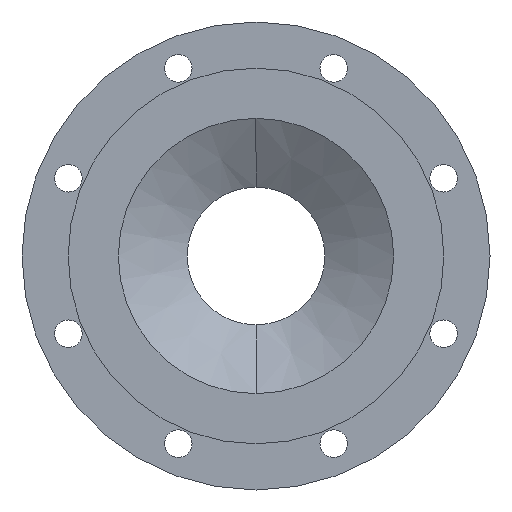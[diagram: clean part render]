
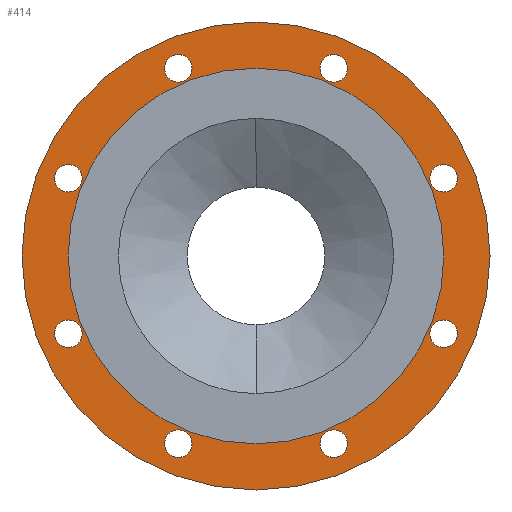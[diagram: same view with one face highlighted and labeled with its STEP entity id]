
A CAD part, left-side view. The second image highlights one B-rep face of the part: STEP entity #414.
In plain terms, the highlighted planar face has unit normal (-1, 0, 0).
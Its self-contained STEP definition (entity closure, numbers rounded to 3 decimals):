
#414=ADVANCED_FACE('',(#813,#814,#815,#816,#817,#818,#819,#820,#821,#822),#823,.F.);
#813=FACE_BOUND('',#1336,.T.);
#814=FACE_BOUND('',#1337,.T.);
#815=FACE_BOUND('',#1338,.T.);
#816=FACE_BOUND('',#1339,.T.);
#817=FACE_BOUND('',#1340,.T.);
#818=FACE_BOUND('',#1341,.T.);
#819=FACE_BOUND('',#1342,.T.);
#820=FACE_BOUND('',#1343,.T.);
#821=FACE_BOUND('',#1344,.T.);
#822=FACE_OUTER_BOUND('',#1345,.T.);
#823=PLANE('',#1346);
#1336=EDGE_LOOP('',(#1965,#1966));
#1337=EDGE_LOOP('',(#1967,#1968));
#1338=EDGE_LOOP('',(#1969,#1970));
#1339=EDGE_LOOP('',(#1971,#1972));
#1340=EDGE_LOOP('',(#1973,#1974));
#1341=EDGE_LOOP('',(#1975,#1976));
#1342=EDGE_LOOP('',(#1977,#1978));
#1343=EDGE_LOOP('',(#1979,#1980));
#1344=EDGE_LOOP('',(#1981,#1982));
#1345=EDGE_LOOP('',(#1983,#1984));
#1346=AXIS2_PLACEMENT_3D('',#1985,#1986,#1987);
#1965=ORIENTED_EDGE('',*,*,#2881,.T.);
#1966=ORIENTED_EDGE('',*,*,#2882,.T.);
#1967=ORIENTED_EDGE('',*,*,#2883,.T.);
#1968=ORIENTED_EDGE('',*,*,#2721,.T.);
#1969=ORIENTED_EDGE('',*,*,#2884,.T.);
#1970=ORIENTED_EDGE('',*,*,#2885,.T.);
#1971=ORIENTED_EDGE('',*,*,#2781,.T.);
#1972=ORIENTED_EDGE('',*,*,#2886,.T.);
#1973=ORIENTED_EDGE('',*,*,#2847,.T.);
#1974=ORIENTED_EDGE('',*,*,#2887,.T.);
#1975=ORIENTED_EDGE('',*,*,#2754,.T.);
#1976=ORIENTED_EDGE('',*,*,#2888,.T.);
#1977=ORIENTED_EDGE('',*,*,#2889,.T.);
#1978=ORIENTED_EDGE('',*,*,#2890,.T.);
#1979=ORIENTED_EDGE('',*,*,#2866,.T.);
#1980=ORIENTED_EDGE('',*,*,#2891,.T.);
#1981=ORIENTED_EDGE('',*,*,#2718,.T.);
#1982=ORIENTED_EDGE('',*,*,#2892,.T.);
#1983=ORIENTED_EDGE('',*,*,#2893,.F.);
#1984=ORIENTED_EDGE('',*,*,#2894,.F.);
#1985=CARTESIAN_POINT('',(1.0,0.0,0.));
#1986=DIRECTION('',(1.0,0.0,0.));
#1987=DIRECTION('',(0.,0.0,-1.0));
#2718=EDGE_CURVE('',#3145,#3149,#3151,.T.);
#2721=EDGE_CURVE('',#3156,#3154,#3157,.T.);
#2754=EDGE_CURVE('',#3205,#3209,#3211,.T.);
#2781=EDGE_CURVE('',#3253,#3257,#3259,.T.);
#2847=EDGE_CURVE('',#3358,#3362,#3364,.T.);
#2866=EDGE_CURVE('',#3389,#3393,#3395,.T.);
#2881=EDGE_CURVE('',#3417,#3418,#3419,.T.);
#2882=EDGE_CURVE('',#3418,#3417,#3420,.T.);
#2883=EDGE_CURVE('',#3154,#3156,#3421,.T.);
#2884=EDGE_CURVE('',#3422,#3423,#3424,.T.);
#2885=EDGE_CURVE('',#3423,#3422,#3425,.T.);
#2886=EDGE_CURVE('',#3257,#3253,#3426,.T.);
#2887=EDGE_CURVE('',#3362,#3358,#3427,.T.);
#2888=EDGE_CURVE('',#3209,#3205,#3428,.T.);
#2889=EDGE_CURVE('',#3429,#3430,#3431,.T.);
#2890=EDGE_CURVE('',#3430,#3429,#3432,.T.);
#2891=EDGE_CURVE('',#3393,#3389,#3433,.T.);
#2892=EDGE_CURVE('',#3149,#3145,#3434,.T.);
#2893=EDGE_CURVE('',#3435,#3436,#3437,.T.);
#2894=EDGE_CURVE('',#3436,#3435,#3438,.T.);
#3145=VERTEX_POINT('',#3756);
#3149=VERTEX_POINT('',#3761);
#3151=CIRCLE('',#3764,136.5);
#3154=VERTEX_POINT('',#3767);
#3156=VERTEX_POINT('',#3770);
#3157=CIRCLE('',#3771,10.0);
#3205=VERTEX_POINT('',#3831);
#3209=VERTEX_POINT('',#3836);
#3211=CIRCLE('',#3839,10.0);
#3253=VERTEX_POINT('',#3897);
#3257=VERTEX_POINT('',#3902);
#3259=CIRCLE('',#3905,10.0);
#3358=VERTEX_POINT('',#4037);
#3362=VERTEX_POINT('',#4042);
#3364=CIRCLE('',#4045,10.0);
#3389=VERTEX_POINT('',#4078);
#3393=VERTEX_POINT('',#4083);
#3395=CIRCLE('',#4086,10.0);
#3417=VERTEX_POINT('',#4118);
#3418=VERTEX_POINT('',#4119);
#3419=CIRCLE('',#4120,10.0);
#3420=CIRCLE('',#4121,10.0);
#3421=CIRCLE('',#4122,10.0);
#3422=VERTEX_POINT('',#4123);
#3423=VERTEX_POINT('',#4124);
#3424=CIRCLE('',#4125,10.0);
#3425=CIRCLE('',#4126,10.0);
#3426=CIRCLE('',#4127,10.0);
#3427=CIRCLE('',#4128,10.0);
#3428=CIRCLE('',#4129,10.0);
#3429=VERTEX_POINT('',#4130);
#3430=VERTEX_POINT('',#4131);
#3431=CIRCLE('',#4132,10.0);
#3432=CIRCLE('',#4133,10.0);
#3433=CIRCLE('',#4134,10.0);
#3434=CIRCLE('',#4135,136.5);
#3435=VERTEX_POINT('',#4136);
#3436=VERTEX_POINT('',#4137);
#3437=CIRCLE('',#4138,170.0);
#3438=CIRCLE('',#4139,170.0);
#3756=CARTESIAN_POINT('',(1.,0.0,-136.5));
#3761=CARTESIAN_POINT('',(1.,0.,136.5));
#3764=AXIS2_PLACEMENT_3D('',#4506,#4507,#4508);
#3767=CARTESIAN_POINT('',(1.0,56.446,-146.272));
#3770=CARTESIAN_POINT('',(1.,56.446,-126.272));
#3771=AXIS2_PLACEMENT_3D('',#4510,#4511,#4512);
#3831=CARTESIAN_POINT('',(1.0,56.446,126.272));
#3836=CARTESIAN_POINT('',(1.,56.446,146.272));
#3839=AXIS2_PLACEMENT_3D('',#4554,#4555,#4556);
#3897=CARTESIAN_POINT('',(1.0,-56.446,126.272));
#3902=CARTESIAN_POINT('',(1.,-56.446,146.272));
#3905=AXIS2_PLACEMENT_3D('',#4584,#4585,#4586);
#4037=CARTESIAN_POINT('',(1.0,136.272,46.446));
#4042=CARTESIAN_POINT('',(1.,136.272,66.446));
#4045=AXIS2_PLACEMENT_3D('',#4658,#4659,#4660);
#4078=CARTESIAN_POINT('',(1.0,-56.446,-146.272));
#4083=CARTESIAN_POINT('',(1.,-56.446,-126.272));
#4086=AXIS2_PLACEMENT_3D('',#4680,#4681,#4682);
#4118=CARTESIAN_POINT('',(1.0,136.272,-66.446));
#4119=CARTESIAN_POINT('',(1.0,136.272,-46.446));
#4120=AXIS2_PLACEMENT_3D('',#4693,#4694,#4695);
#4121=AXIS2_PLACEMENT_3D('',#4696,#4697,#4698);
#4122=AXIS2_PLACEMENT_3D('',#4699,#4700,#4701);
#4123=CARTESIAN_POINT('',(1.0,-136.272,46.446));
#4124=CARTESIAN_POINT('',(1.,-136.272,66.446));
#4125=AXIS2_PLACEMENT_3D('',#4702,#4703,#4704);
#4126=AXIS2_PLACEMENT_3D('',#4705,#4706,#4707);
#4127=AXIS2_PLACEMENT_3D('',#4708,#4709,#4710);
#4128=AXIS2_PLACEMENT_3D('',#4711,#4712,#4713);
#4129=AXIS2_PLACEMENT_3D('',#4714,#4715,#4716);
#4130=CARTESIAN_POINT('',(1.0,-136.272,-66.446));
#4131=CARTESIAN_POINT('',(1.0,-136.272,-46.446));
#4132=AXIS2_PLACEMENT_3D('',#4717,#4718,#4719);
#4133=AXIS2_PLACEMENT_3D('',#4720,#4721,#4722);
#4134=AXIS2_PLACEMENT_3D('',#4723,#4724,#4725);
#4135=AXIS2_PLACEMENT_3D('',#4726,#4727,#4728);
#4136=CARTESIAN_POINT('',(1.,0.0,-170.0));
#4137=CARTESIAN_POINT('',(1.,0.,170.0));
#4138=AXIS2_PLACEMENT_3D('',#4729,#4730,#4731);
#4139=AXIS2_PLACEMENT_3D('',#4732,#4733,#4734);
#4506=CARTESIAN_POINT('',(1.0,0.0,0.));
#4507=DIRECTION('',(1.0,0.0,0.));
#4508=DIRECTION('',(0.,0.0,-1.0));
#4510=CARTESIAN_POINT('',(1.,56.446,-136.272));
#4511=DIRECTION('',(1.0,0.0,0.));
#4512=DIRECTION('',(0.,0.0,-1.0));
#4554=CARTESIAN_POINT('',(1.,56.446,136.272));
#4555=DIRECTION('',(1.0,0.0,0.));
#4556=DIRECTION('',(0.,0.0,-1.0));
#4584=CARTESIAN_POINT('',(1.,-56.446,136.272));
#4585=DIRECTION('',(1.0,0.0,0.));
#4586=DIRECTION('',(0.,0.0,-1.0));
#4658=CARTESIAN_POINT('',(1.,136.272,56.446));
#4659=DIRECTION('',(1.0,0.0,0.));
#4660=DIRECTION('',(0.,0.0,-1.0));
#4680=CARTESIAN_POINT('',(1.,-56.446,-136.272));
#4681=DIRECTION('',(1.0,0.0,0.));
#4682=DIRECTION('',(0.,0.0,-1.0));
#4693=CARTESIAN_POINT('',(1.0,136.272,-56.446));
#4694=DIRECTION('',(1.0,0.0,0.));
#4695=DIRECTION('',(0.,0.0,-1.0));
#4696=CARTESIAN_POINT('',(1.0,136.272,-56.446));
#4697=DIRECTION('',(1.0,0.0,0.));
#4698=DIRECTION('',(0.,0.0,-1.0));
#4699=CARTESIAN_POINT('',(1.,56.446,-136.272));
#4700=DIRECTION('',(1.0,0.0,0.));
#4701=DIRECTION('',(0.,0.0,-1.0));
#4702=CARTESIAN_POINT('',(1.,-136.272,56.446));
#4703=DIRECTION('',(1.0,0.0,0.));
#4704=DIRECTION('',(0.,0.0,-1.0));
#4705=CARTESIAN_POINT('',(1.,-136.272,56.446));
#4706=DIRECTION('',(1.0,0.0,0.));
#4707=DIRECTION('',(0.,0.0,-1.0));
#4708=CARTESIAN_POINT('',(1.,-56.446,136.272));
#4709=DIRECTION('',(1.0,0.0,0.));
#4710=DIRECTION('',(0.,0.0,-1.0));
#4711=CARTESIAN_POINT('',(1.,136.272,56.446));
#4712=DIRECTION('',(1.0,0.0,0.));
#4713=DIRECTION('',(0.,0.0,-1.0));
#4714=CARTESIAN_POINT('',(1.,56.446,136.272));
#4715=DIRECTION('',(1.0,0.0,0.));
#4716=DIRECTION('',(0.,0.0,-1.0));
#4717=CARTESIAN_POINT('',(1.0,-136.272,-56.446));
#4718=DIRECTION('',(1.0,0.0,0.));
#4719=DIRECTION('',(0.,0.0,-1.0));
#4720=CARTESIAN_POINT('',(1.0,-136.272,-56.446));
#4721=DIRECTION('',(1.0,0.0,0.));
#4722=DIRECTION('',(0.,0.0,-1.0));
#4723=CARTESIAN_POINT('',(1.,-56.446,-136.272));
#4724=DIRECTION('',(1.0,0.0,0.));
#4725=DIRECTION('',(0.,0.0,-1.0));
#4726=CARTESIAN_POINT('',(1.0,0.0,0.));
#4727=DIRECTION('',(1.0,0.0,0.));
#4728=DIRECTION('',(0.,0.0,-1.0));
#4729=CARTESIAN_POINT('',(1.0,0.0,0.));
#4730=DIRECTION('',(1.0,0.0,0.));
#4731=DIRECTION('',(0.,0.0,-1.0));
#4732=CARTESIAN_POINT('',(1.0,0.0,0.));
#4733=DIRECTION('',(1.0,0.0,0.));
#4734=DIRECTION('',(0.,0.0,-1.0));
